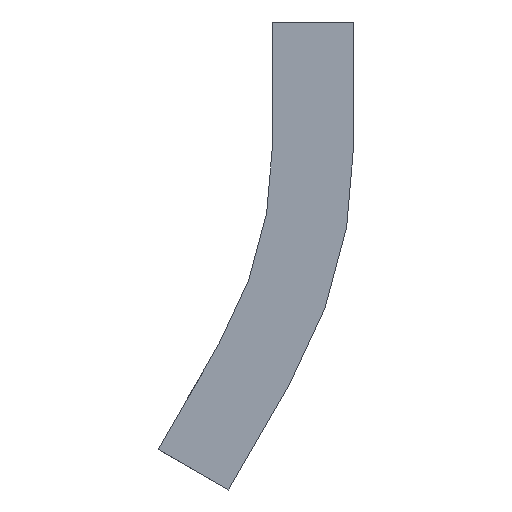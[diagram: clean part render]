
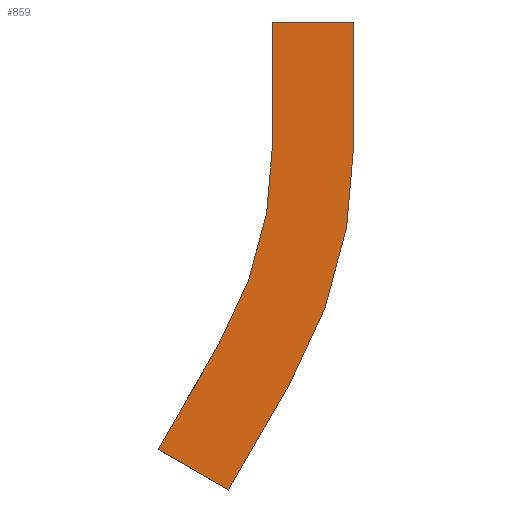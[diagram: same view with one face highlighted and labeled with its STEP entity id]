
A CAD part, left-side view. The second image highlights one B-rep face of the part: STEP entity #859.
In plain terms, the highlighted planar face has unit normal (-1, 0, 0).
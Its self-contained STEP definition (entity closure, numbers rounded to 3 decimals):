
#20 = CARTESIAN_POINT ( 'NONE',  ( -153.5, -20., -30. ) ) ;
#23 = DIRECTION ( 'NONE',  ( 0., 0., 1. ) ) ;
#24 = LINE ( 'NONE', #171, #397 ) ;
#39 = LINE ( 'NONE', #756, #144 ) ;
#47 = CIRCLE ( 'NONE', #819, 118.5 ) ;
#58 = VECTOR ( 'NONE', #358, 1000. ) ;
#80 = EDGE_CURVE ( 'NONE', #713, #777, #24, .T. ) ;
#93 = VERTEX_POINT ( 'NONE', #448 ) ;
#106 = ORIENTED_EDGE ( 'NONE', *, *, #277, .F. ) ;
#110 = AXIS2_PLACEMENT_3D ( 'NONE', #170, #238, #175 ) ;
#122 = VERTEX_POINT ( 'NONE', #566 ) ;
#144 = VECTOR ( 'NONE', #161, 1000. ) ;
#154 = FACE_OUTER_BOUND ( 'NONE', #856, .T. ) ;
#159 = CARTESIAN_POINT ( 'NONE',  ( -153.5, 28.196, -105.231 ) ) ;
#161 = DIRECTION ( 'NONE',  ( 0., 0.866, 0.5 ) ) ;
#170 = CARTESIAN_POINT ( 'NONE',  ( -153.5, 98.5, -30. ) ) ;
#171 = CARTESIAN_POINT ( 'NONE',  ( -153.5, -20., 0. ) ) ;
#175 = DIRECTION ( 'NONE',  ( 0., 0., -1. ) ) ;
#182 = ORIENTED_EDGE ( 'NONE', *, *, #184, .F. ) ;
#184 = EDGE_CURVE ( 'NONE', #471, #802, #588, .T. ) ;
#191 = DIRECTION ( 'NONE',  ( -1., 0., 0. ) ) ;
#215 = ORIENTED_EDGE ( 'NONE', *, *, #495, .F. ) ;
#238 = DIRECTION ( 'NONE',  ( 1., 0., 0. ) ) ;
#277 = EDGE_CURVE ( 'NONE', #346, #471, #710, .T. ) ;
#293 = ORIENTED_EDGE ( 'NONE', *, *, #618, .F. ) ;
#305 = VERTEX_POINT ( 'NONE', #630 ) ;
#338 = VECTOR ( 'NONE', #668, 1000. ) ;
#343 = EDGE_CURVE ( 'NONE', #802, #713, #377, .T. ) ;
#346 = VERTEX_POINT ( 'NONE', #159 ) ;
#352 = LINE ( 'NONE', #427, #58 ) ;
#358 = DIRECTION ( 'NONE',  ( 0., 0.5, -0.866 ) ) ;
#372 = LINE ( 'NONE', #20, #697 ) ;
#377 = LINE ( 'NONE', #759, #855 ) ;
#389 = ORIENTED_EDGE ( 'NONE', *, *, #590, .F. ) ;
#391 = DIRECTION ( 'NONE',  ( 1., 0., 0. ) ) ;
#397 = VECTOR ( 'NONE', #501, 1000. ) ;
#403 = EDGE_CURVE ( 'NONE', #305, #122, #47, .T. ) ;
#427 = CARTESIAN_POINT ( 'NONE',  ( -153.5, 10.876, -115.231 ) ) ;
#442 = ORIENTED_EDGE ( 'NONE', *, *, #403, .F. ) ;
#448 = CARTESIAN_POINT ( 'NONE',  ( -153.5, 10.876, -115.231 ) ) ;
#462 = DIRECTION ( 'NONE',  ( 0., 0., -1. ) ) ;
#471 = VERTEX_POINT ( 'NONE', #666 ) ;
#473 = CARTESIAN_POINT ( 'NONE',  ( -153.5, 98.5, -30. ) ) ;
#495 = EDGE_CURVE ( 'NONE', #122, #93, #352, .T. ) ;
#501 = DIRECTION ( 'NONE',  ( 0., -1., 0. ) ) ;
#512 = DIRECTION ( 'NONE',  ( 0., 0., -1. ) ) ;
#523 = CARTESIAN_POINT ( 'NONE',  ( -153.5, 98.5, -30. ) ) ;
#563 = ORIENTED_EDGE ( 'NONE', *, *, #80, .F. ) ;
#566 = CARTESIAN_POINT ( 'NONE',  ( -153.5, -4.124, -89.25 ) ) ;
#588 = CIRCLE ( 'NONE', #797, 98.5 ) ;
#590 = EDGE_CURVE ( 'NONE', #777, #305, #372, .T. ) ;
#610 = CARTESIAN_POINT ( 'NONE',  ( -153.5, -20., 0. ) ) ;
#618 = EDGE_CURVE ( 'NONE', #93, #346, #39, .T. ) ;
#630 = CARTESIAN_POINT ( 'NONE',  ( -153.5, -20., -30. ) ) ;
#666 = CARTESIAN_POINT ( 'NONE',  ( -153.5, 13.196, -79.25 ) ) ;
#668 = DIRECTION ( 'NONE',  ( 0., -0.5, 0.866 ) ) ;
#697 = VECTOR ( 'NONE', #512, 1000. ) ;
#710 = LINE ( 'NONE', #809, #338 ) ;
#713 = VERTEX_POINT ( 'NONE', #841 ) ;
#715 = ORIENTED_EDGE ( 'NONE', *, *, #343, .F. ) ;
#727 = CARTESIAN_POINT ( 'NONE',  ( -153.5, 0., -30. ) ) ;
#756 = CARTESIAN_POINT ( 'NONE',  ( -153.5, 28.196, -105.231 ) ) ;
#759 = CARTESIAN_POINT ( 'NONE',  ( -153.5, 0., 0. ) ) ;
#777 = VERTEX_POINT ( 'NONE', #610 ) ;
#797 = AXIS2_PLACEMENT_3D ( 'NONE', #473, #191, #462 ) ;
#802 = VERTEX_POINT ( 'NONE', #727 ) ;
#809 = CARTESIAN_POINT ( 'NONE',  ( -153.5, 13.196, -79.25 ) ) ;
#819 = AXIS2_PLACEMENT_3D ( 'NONE', #523, #391, #840 ) ;
#827 = PLANE ( 'NONE',  #110 ) ;
#840 = DIRECTION ( 'NONE',  ( 0., 0., 1. ) ) ;
#841 = CARTESIAN_POINT ( 'NONE',  ( -153.5, 0., 0. ) ) ;
#855 = VECTOR ( 'NONE', #23, 1000. ) ;
#856 = EDGE_LOOP ( 'NONE', ( #563, #715, #182, #106, #293, #215, #442, #389 ) ) ;
#859 = ADVANCED_FACE ( 'NONE', ( #154 ), #827, .F. ) ;
